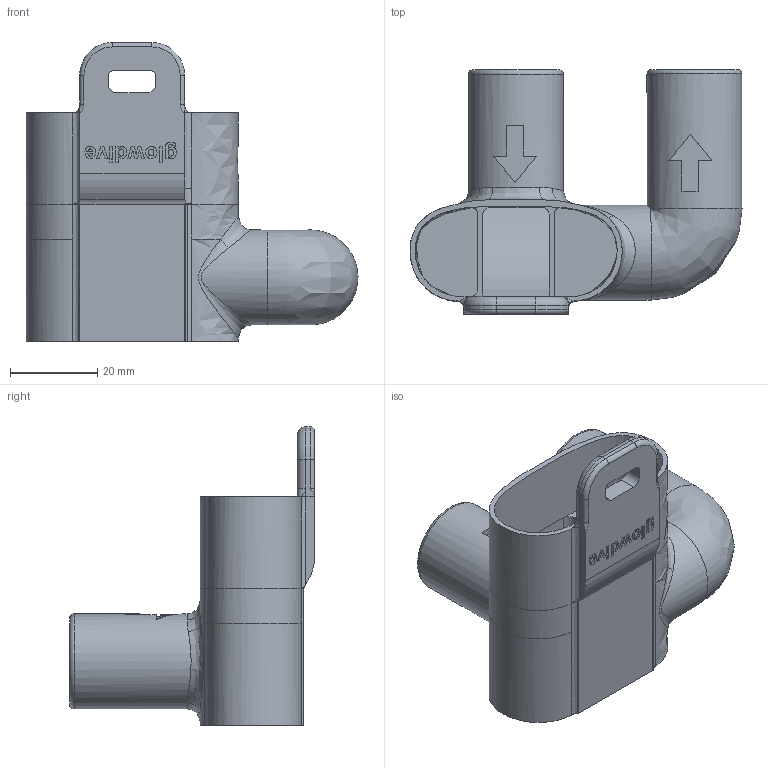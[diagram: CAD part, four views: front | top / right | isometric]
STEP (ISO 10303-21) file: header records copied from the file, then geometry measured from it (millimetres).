
FILE_DESCRIPTION(/* description */ (''),/* implementation_level */ '2;1');
FILE_NAME(/* name */ '/Users/Carlos/Dropbox/WEBS/Glowdive Catalog/corona/mascara doble salida v2.step',/* time_stamp */ '2020-03-29T05:23:57+02:00',/* author */ (''),/* organization */ (''),/* preprocessor_version */ 'ST-DEVELOPER v18',/* originating_system */ 'Autodesk Translation Framework v8.12.0.6',/* authorisation */ '');
FILE_SCHEMA (('AUTOMOTIVE_DESIGN { 1 0 10303 214 3 1 1 }'));
Length unit declared in the file: millimetre
Products named in the file (1): mascara doble salida
Bounding box: 76.23 x 56.25 x 68.62 mm (x, y, z)
Volume: 29038.9 mm3; surface area: 27795.1 mm2
Topology: 1 solids, 1 shells, 330 faces, 983 edges, 658 vertices
Faces by surface type: bspline 159, plane 128, cylinder 28, torus 15
Full cylindrical faces by diameter (mm): 15 x2, 17.5 x2, 21.8 x3
Entity records: 22585 total; most frequent: CARTESIAN_POINT 14877, ORIENTED_EDGE 1962, DIRECTION 1025, EDGE_CURVE 981, VERTEX_POINT 658, B_SPLINE_CURVE_WITH_KNOTS 424, LINE 419, VECTOR 419
